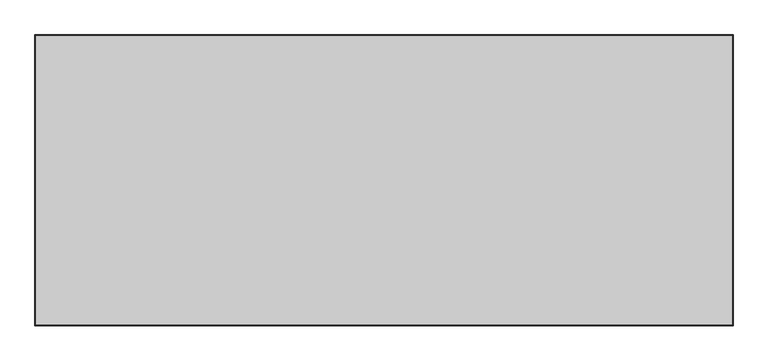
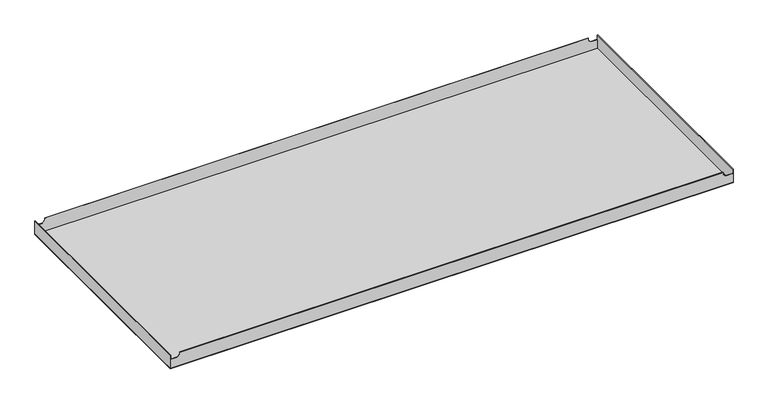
"""IFC4 building model written with IfcOpenShell, lengths in millimetres: proxy geometry, durlum_S1_RHOMBOS_panel : durlum_S1_RHOMBOS_panel_wall_width_cut."""

import ifcopenshell
import ifcopenshell.guid

model = None  # the IFC model being written
_history = None  # IfcOwnerHistory: only IFC2X3 demands one
_inside = {}  # id of a spatial element -> (the spatial element, [elements in it])
_under = {}  # id of a project, library or spatial element -> (it, [spatial elements below it])
_declared = {}  # id of a project -> (the project, [libraries it declares])
_typed = {}  # id of a type object -> (the type object, [elements of that type])
_made_of = {}  # id of a material, layer set ... -> (it, [elements and type objects made of it])


def new_model(schema):
    """Start an empty IFC model of exactly this schema.

    Asked for "IFC4X3", IfcOpenShell would pick the latest addendum, in which some entities
    have other attributes; the version numbers below select the first issue.
    IFC2X3 requires an IfcOwnerHistory on every rooted entity: one is made here for all.
    """
    global model, _history
    if schema == "IFC4X3":
        model = ifcopenshell.file(schema_version=(4, 3, 0, 0))
    else:
        model = ifcopenshell.file(schema=schema)
    _inside.clear()
    _under.clear()
    _declared.clear()
    _typed.clear()
    _made_of.clear()
    _history = None
    if model.schema == "IFC2X3":
        org = make("IfcOrganization", Name="unknown")
        user = make(
            "IfcPersonAndOrganization",
            ThePerson=make("IfcPerson", FamilyName="unknown"),
            TheOrganization=org,
        )
        app = make(
            "IfcApplication",
            ApplicationDeveloper=org,
            Version="unknown",
            ApplicationFullName="unknown",
            ApplicationIdentifier="unknown",
        )
        _history = make(
            "IfcOwnerHistory",
            OwningUser=user,
            OwningApplication=app,
            ChangeAction="ADDED",
            CreationDate=0,
        )
    return model


def make(cls, **values):
    """One entity of the class cls with the attributes given. An attribute that is None is left unset."""
    return model.create_entity(
        cls, **{name: value for name, value in values.items() if value is not None}
    )


def rooted(cls, **values):
    """An entity with a GlobalId (a new one), such as an element, a storey or a relation."""
    return make(cls, GlobalId=ifcopenshell.guid.new(), OwnerHistory=_history, **values)


def si_unit(unit_type, name, prefix=None):
    """IfcSIUnit, for example si_unit("LENGTHUNIT", "METRE", prefix="MILLI")."""
    return make("IfcSIUnit", UnitType=unit_type, Prefix=prefix, Name=name)


def assignment(units):
    """IfcUnitAssignment: the units of a project."""
    return None if units is None else make("IfcUnitAssignment", Units=units)


def point(xyz):
    """IfcCartesianPoint."""
    return None if xyz is None else make("IfcCartesianPoint", Coordinates=xyz)


def direction(xyz):
    """IfcDirection."""
    return None if xyz is None else make("IfcDirection", DirectionRatios=xyz)


def frame(location, z_axis=None, x_axis=None):
    """IfcAxis2Placement3D, a coordinate frame: its origin and axes. An axis left out is left unset."""
    return make(
        "IfcAxis2Placement3D",
        Location=point(location),
        Axis=direction(z_axis),
        RefDirection=direction(x_axis),
    )


def origin():
    """The frame at (0, 0, 0) with its axes left unset."""
    return frame((0.0, 0.0, 0.0))


def origin_with_axes():
    """The frame at (0, 0, 0) with the z axis (0, 0, 1) and the x axis (1, 0, 0) written out."""
    return frame((0.0, 0.0, 0.0), z_axis=(0.0, 0.0, 1.0), x_axis=(1.0, 0.0, 0.0))


def place(relative_to, where):
    """IfcLocalPlacement: puts the frame where relative to a parent placement (None: the world)."""
    return make(
        "IfcLocalPlacement", PlacementRelTo=relative_to, RelativePlacement=where
    )


def context(
    kind, dimensions, precision=None, world=None, true_north=None, identifier=None
):
    """IfcGeometricRepresentationContext, for example the 3D "Model" context."""
    return make(
        "IfcGeometricRepresentationContext",
        ContextIdentifier=identifier,
        ContextType=kind,
        CoordinateSpaceDimension=dimensions,
        Precision=precision,
        WorldCoordinateSystem=world,
        TrueNorth=true_north,
    )


def project(units=None, contexts=None):
    """IfcProject with its units and contexts."""
    return rooted(
        "IfcProject",
        Name="project",
        RepresentationContexts=contexts,
        UnitsInContext=assignment(units),
    )


def spatial(cls, under=None, at=None, **own):
    """A site, building, storey or space (cls), placed at a placement, below another one or the project."""
    s = rooted(cls, ObjectPlacement=at, **own)
    if under is not None:
        _under.setdefault(under.id(), (under, []))[1].append(s)
    return s


def polyline(points):
    """IfcPolyline through the points."""
    return make("IfcPolyline", Points=[point(p) for p in points])


def outline(outer, holes=None, kind="AREA"):
    """IfcArbitraryClosedProfileDef: a profile drawn as a closed curve; with holes, ...WithVoids."""
    if holes is None:
        return make("IfcArbitraryClosedProfileDef", ProfileType=kind, OuterCurve=outer)
    return make(
        "IfcArbitraryProfileDefWithVoids",
        ProfileType=kind,
        OuterCurve=outer,
        InnerCurves=holes,
    )


def extrude(swept, where, along, depth):
    """IfcExtrudedAreaSolid: the profile swept, set in the frame where, extruded along a direction by depth."""
    return make(
        "IfcExtrudedAreaSolid",
        SweptArea=swept,
        Position=where,
        ExtrudedDirection=direction(along),
        Depth=depth,
    )


def faces_of(points, faces, orient=None, outer=None):
    """IfcFace entities. A face is a list of loops; a loop is a list of indices into points, from 0.

    orient and outer hold one flag for each loop. By default every Orientation is true, the
    first loop of a face is its IfcFaceOuterBound and the others are IfcFaceBound.
    """
    made = []
    for i, loops in enumerate(faces):
        bounds = []
        for j, loop in enumerate(loops):
            is_outer = j == 0 if outer is None else outer[i][j]
            bounds.append(
                make(
                    "IfcFaceOuterBound" if is_outer else "IfcFaceBound",
                    Bound=make("IfcPolyLoop", Polygon=[points[k] for k in loop]),
                    Orientation=True if orient is None else orient[i][j],
                )
            )
        made.append(make("IfcFace", Bounds=bounds))
    return made


def faceted_brep(points, faces, orient=None, outer=None, voids=None):
    """IfcFacetedBrep: a solid bounded by flat faces; with voids (closed shells), ...WithVoids."""
    shared = [point(p) for p in points]
    hull = make("IfcClosedShell", CfsFaces=faces_of(shared, faces, orient, outer))
    if voids is None:
        return make("IfcFacetedBrep", Outer=hull)
    return make(
        "IfcFacetedBrepWithVoids",
        Outer=hull,
        Voids=[
            make(cls, CfsFaces=faces_of(shared, fs, o, b)) for cls, fs, o, b in voids
        ],
    )


def shape(context_of_items, identifier, shape_type, items):
    """IfcShapeRepresentation: the items that make up one representation, for example the "Body"."""
    return make(
        "IfcShapeRepresentation",
        ContextOfItems=context_of_items,
        RepresentationIdentifier=identifier,
        RepresentationType=shape_type,
        Items=items,
    )


def source(mapping_origin, context_of_items, identifier, shape_type, items):
    """IfcRepresentationMap: a shape defined once, which mapped items show again and again."""
    return make(
        "IfcRepresentationMap",
        MappingOrigin=mapping_origin,
        MappedRepresentation=shape(context_of_items, identifier, shape_type, items),
    )


def transform(
    local_origin,
    x_axis=None,
    y_axis=None,
    z_axis=None,
    scale=None,
    scale2=None,
    scale3=None,
    uniform=True,
):
    """IfcCartesianTransformationOperator3D, or its non-uniform kind. x_axis, y_axis, z_axis: its Axis1, 2, 3."""
    if uniform:
        return make(
            "IfcCartesianTransformationOperator3D",
            Axis1=direction(x_axis),
            Axis2=direction(y_axis),
            LocalOrigin=point(local_origin),
            Scale=scale,
            Axis3=direction(z_axis),
        )
    return make(
        "IfcCartesianTransformationOperator3DnonUniform",
        Axis1=direction(x_axis),
        Axis2=direction(y_axis),
        LocalOrigin=point(local_origin),
        Scale=scale,
        Axis3=direction(z_axis),
        Scale2=scale2,
        Scale3=scale3,
    )


def mapped(mapping_source, mapping_target):
    """IfcMappedItem: shows the shape of a source again, moved by a transform."""
    return make(
        "IfcMappedItem", MappingSource=mapping_source, MappingTarget=mapping_target
    )


def made_of(thing, what):
    """Note that an element or type object is made of a material, layer set ...; save() writes the relation."""
    if what is not None:
        _made_of.setdefault(what.id(), (what, []))[1].append(thing)
    return thing


def element(
    cls,
    number,
    at=None,
    inside=None,
    cuts=None,
    type_object=None,
    material=None,
    context=None,
    identifier="Body",
    shape_type=None,
    held_by="IfcProductDefinitionShape",
    body=None,
    shapes=None,
    **own,
):
    """One element of the class cls, such as IfcWall. Its Tag is "e" and its number.

    at: its placement. inside: the storey or other place that contains it. cuts: it is an
    opening in that element (IfcRelVoidsElement). A single representation is given by context,
    identifier, shape_type and body (its items); several are given by shapes. held_by: the class
    of the entity that holds the representations. save() writes the other relations.
    """
    e = rooted(cls, Tag="e%d" % number, ObjectPlacement=at, **own)
    if body is not None:
        shapes = [shape(context, identifier, shape_type, body)]
    if shapes is not None:
        e.Representation = make(held_by, Representations=shapes)
    if inside is not None:
        _inside.setdefault(inside.id(), (inside, []))[1].append(e)
    if cuts is not None:
        rooted(
            "IfcRelVoidsElement", RelatingBuildingElement=cuts, RelatedOpeningElement=e
        )
    if type_object is not None:
        _typed.setdefault(type_object.id(), (type_object, []))[1].append(e)
    return made_of(e, material)


def aggregate(whole, parts):
    """IfcRelAggregates: a whole, such as a stair, and the parts it consists of."""
    return rooted("IfcRelAggregates", RelatingObject=whole, RelatedObjects=parts)


def save(model, path):
    """Write the relations noted so far, then the file.

    IfcRelAggregates (storeys below a building ...), IfcRelContainedInSpatialStructure (elements
    in a storey), IfcRelDefinesByType, IfcRelAssociatesMaterial and IfcRelDeclares: one each for
    every whole, place, type object, material and project.
    """
    for whole, parts in _under.values():
        aggregate(whole, parts)
    for where, things in _inside.values():
        rooted(
            "IfcRelContainedInSpatialStructure",
            RelatedElements=things,
            RelatingStructure=where,
        )
    for kind, things in _typed.values():
        rooted("IfcRelDefinesByType", RelatedObjects=things, RelatingType=kind)
    for what, things in _made_of.values():
        rooted("IfcRelAssociatesMaterial", RelatedObjects=things, RelatingMaterial=what)
    for by, libraries in _declared.values():
        rooted("IfcRelDeclares", RelatingContext=by, RelatedDefinitions=libraries)
    model.write(path)


def generic_models_777941b1(model_context):
    return source(origin(), model_context, "Body", "SolidModel", [
        faceted_brep([(-600.0, 250.0, 30.0), (-600.0, -250.0, 30.0), (-599.0, -250.0, 30.0), (-599.0, 250.0, 30.0), (600.0, -250.0, 30.0), (600.0, 250.0, 30.0), (599.0, 250.0, 30.0), (599.0, -250.0, 30.0), (-579.4, 250.0, 30.0), (-579.4, 249.0, 30.0), (579.0, 249.0, 30.0), (579.0, 250.0, 30.0), (-579.4, -249.0, 30.0), (-579.4, -250.0, 30.0), (579.0, -250.0, 30.0), (579.0, -249.0, 30.0), (600.0, 250.0, 1.0), (600.0, -250.0, 1.0), (-600.0, -250.0, 1.0), (-600.0, 250.0, 1.0), (599.0, 249.0, 1.0), (-599.0, 249.0, 1.0), (-599.0, -249.0, 1.0), (599.0, -249.0, 1.0), (-599.0, 250.0, 20.1669893), (-584.6658218, 250.0, 20.1669893), (-579.4, 250.0, 25.4328111), (579.0, 250.0, 25.4469988), (584.2800094, 250.0, 20.1669893), (599.0, 250.0, 20.1669893), (599.0, -250.0, 20.1669893), (584.2800094, -250.0, 20.1669893), (579.0, -250.0, 25.4469988), (-579.4, -250.0, 25.4328111), (-584.6658218, -250.0, 20.1669893), (-599.0, -250.0, 20.1669893), (599.0, 249.0, 20.1669893), (599.0, -249.0, 20.1669893), (-599.0, -249.0, 20.1669893), (-584.6658218, -249.0, 20.1669893), (-579.4, -249.0, 25.4328111), (579.0, -249.0, 25.4469988), (584.2800094, -249.0, 20.1669893), (-599.0, 249.0, 20.1669893), (584.2800094, 249.0, 20.1669893), (579.0, 249.0, 25.4469988), (-579.4, 249.0, 25.4328111), (-584.6658218, 249.0, 20.1669893)], [[[0, 1, 2, 3]], [[4, 5, 6, 7]], [[8, 9, 10, 11]], [[12, 13, 14, 15]], [[16, 17, 18, 19], [20, 21, 22, 23]], [[16, 19, 0, 3, 24, 25, 26, 8, 11, 27, 28, 29, 6, 5]], [[1, 0, 19, 18]], [[18, 17, 4, 7, 30, 31, 32, 14, 13, 33, 34, 35, 2, 1]], [[5, 4, 17, 16]], [[6, 29, 36, 20, 23, 37, 30, 7]], [[23, 22, 38, 39, 40, 12, 15, 41, 42, 37]], [[22, 21, 43, 24, 3, 2, 35, 38]], [[21, 20, 36, 44, 45, 10, 9, 46, 47, 43]], [[38, 35, 34, 39]], [[24, 43, 47, 25]], [[39, 34, 33, 40]], [[25, 47, 46, 26]], [[40, 33, 13, 12]], [[26, 46, 9, 8]], [[36, 29, 28, 44]], [[30, 37, 42, 31]], [[44, 28, 27, 45]], [[31, 42, 41, 32]], [[32, 41, 15, 14]], [[45, 27, 11, 10]]]),
        extrude(outline(polyline([(600.0, 250.0), (600.0, -250.0), (-600.0, -250.0), (-600.0, 250.0), (600.0, 250.0)])), origin_with_axes(), (0.0, 0.0, 1.0), 1.0),
    ])


if __name__ == "__main__":
    model = new_model("IFC4")
    model_context = context("Model", 3, world=origin())
    ifc_project = project(units=[si_unit("LENGTHUNIT", "METRE", prefix="MILLI")], contexts=[model_context])
    site = spatial("IfcSite", under=ifc_project)
    building = spatial("IfcBuilding", under=site)
    placement = place(None, origin())
    generic_models_shape = generic_models_777941b1(model_context)
    element("IfcBuildingElementProxy", 1, Name="durlum_S1_RHOMBOS_panel : durlum_S1_RHOMBOS_panel_wall_width_cut", ObjectType="durlum_S1_RHOMBOS_panel : durlum_S1_RHOMBOS_panel_wall_width_cut", at=placement, inside=building, context=model_context, shape_type="MappedRepresentation", body=[
        mapped(generic_models_shape, transform((0.0, 0.0, 0.0), x_axis=(1.0, 0.0, 0.0), y_axis=(0.0, 1.0, 0.0), z_axis=(0.0, 0.0, 1.0))),
    ])
    save(model, "model.ifc")
